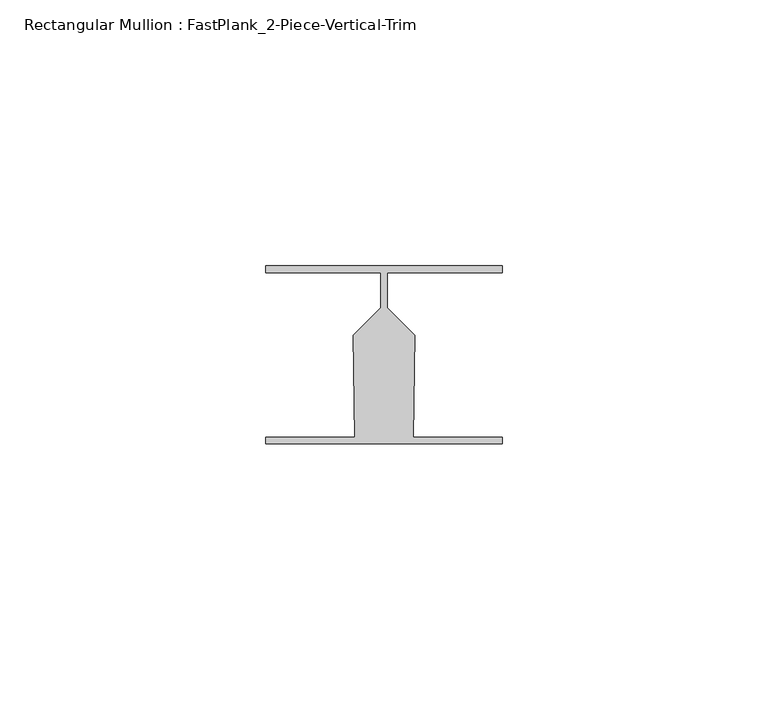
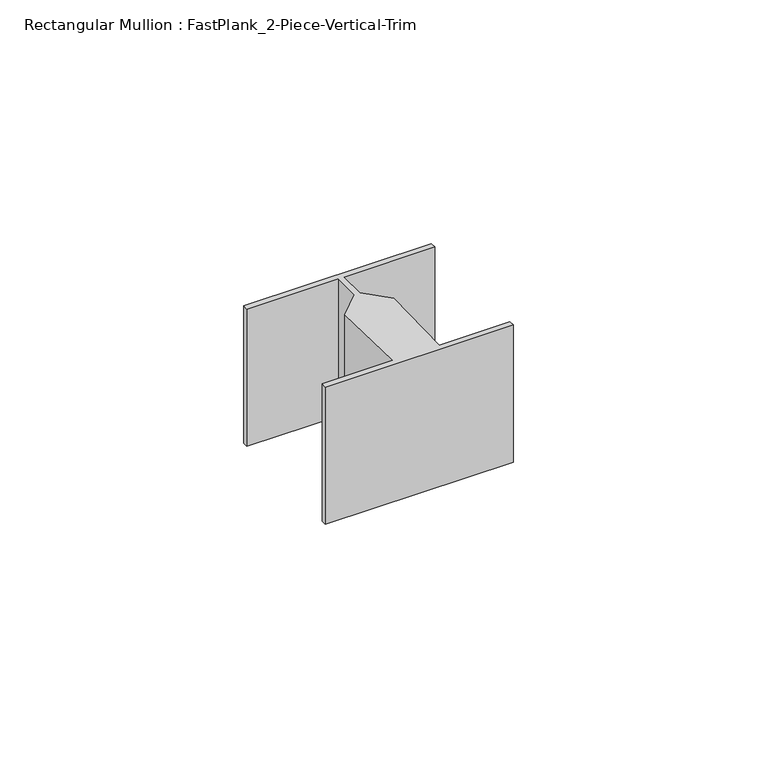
"""IFC4 building model written with IfcOpenShell, lengths in millimetres: member geometry, Rectangular Mullion : FastPlank_2-Piece-Vertical-Trim."""

from ifc_helpers import new_model, si_unit, frame, origin, place, context, project, spatial, polyline, outline, extrude, source, transform, mapped, element, save


def rectangular_mullion_fastplank_2_piece_vertical_trim_9380873f(model_context):
    return source(origin(), model_context, "Body", "SweptSolid", [
        extrude(outline(polyline([(22.2251761, 11.8625052), (22.2251761, 10.5625078), (0.6499987, 10.5625078), (0.6499987, 3.992521), (5.8241876, -1.1816679), (5.4899028, -20.332833), (22.2251761, -20.332833), (22.2251761, -21.6328304), (-22.2251761, -21.6328304), (-22.2251761, -20.332833), (-5.4899028, -20.332833), (-5.8241876, -1.1816679), (-0.6499987, 3.992521), (-0.6499987, 10.5625078), (-22.2251761, 10.5625078), (-22.2251761, 11.8625052), (22.2251761, 11.8625052)])), frame((0.0, 0.0, -34.3582912), z_axis=(0.0, 0.0, 1.0), x_axis=(1.0, 0.0, 0.0)), (0.0, 0.0, 1.0), 34.3582912),
    ])


if __name__ == "__main__":
    model = new_model("IFC4")
    model_context = context("Model", 3, world=origin())
    ifc_project = project(units=[si_unit("LENGTHUNIT", "METRE", prefix="MILLI")], contexts=[model_context])
    site = spatial("IfcSite", under=ifc_project)
    building = spatial("IfcBuilding", under=site)
    placement = place(None, origin())
    rectangular_mullion_fastplank_2_piece_vertical_trim_shape = rectangular_mullion_fastplank_2_piece_vertical_trim_9380873f(model_context)
    element("IfcMember", 1, ObjectType="Rectangular Mullion : FastPlank_2-Piece-Vertical-Trim", at=placement, inside=building, context=model_context, shape_type="MappedRepresentation", body=[
        mapped(rectangular_mullion_fastplank_2_piece_vertical_trim_shape, transform((0.0, 0.0, 0.0), x_axis=(1.0, 0.0, 0.0), y_axis=(0.0, 1.0, 0.0), z_axis=(0.0, 0.0, 1.0))),
    ])
    save(model, "model.ifc")
